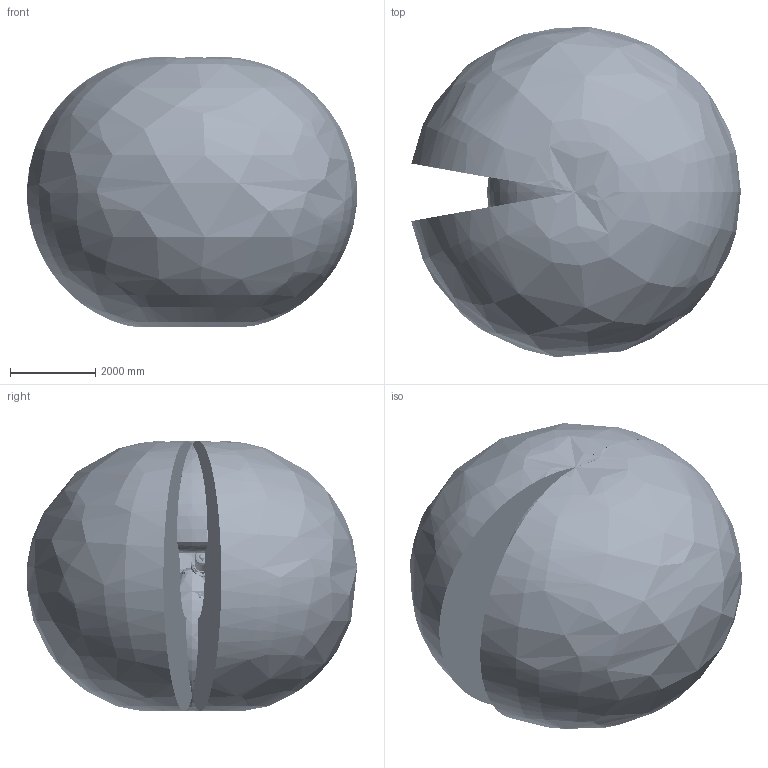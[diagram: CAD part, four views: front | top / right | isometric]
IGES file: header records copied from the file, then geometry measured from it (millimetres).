
Start section: SolidWorks IGES file using analytic representation for surfaces
Global section: file name: C:\Data\SAP_DOC\IRB6740_lightweight\6750S\IRB 6750S ASM\IRB6750S_215kg-390_OC_01_SW_J\IRB6750S_215kg-390_OC_01_IGES_J\IRB6750S_215kg-390_OC_01_ASM_CAD.igs; native system: SolidWorks 2024; preprocessor: SolidWorks 2024; author: SEJAOLS6; date: 260513.072105; units: millimetre
Bounding box: 7752.29 x 7759.82 x 6348.27 mm (x, y, z)
Surface area: 258182548.8 mm2 (no closed solid volume)
Topology: 0 solids, 0 shells, 8268 faces, 140635 edges, 140388 vertices
Faces by surface type: bspline 4585, revolution 3683
